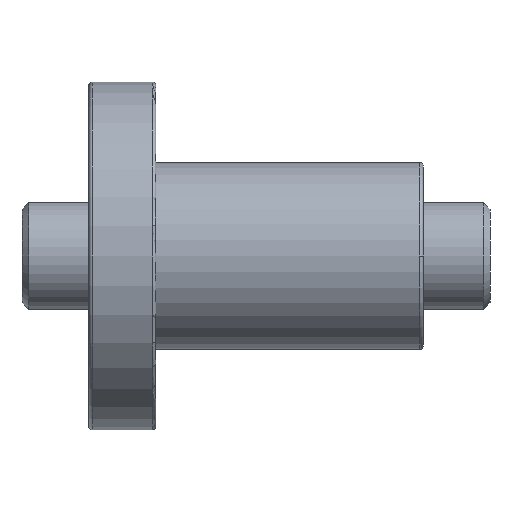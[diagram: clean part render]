
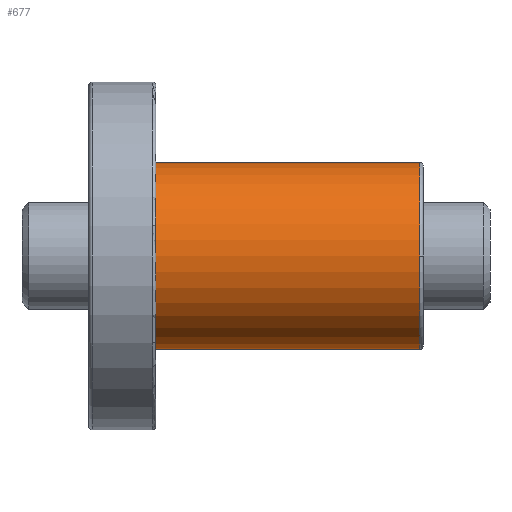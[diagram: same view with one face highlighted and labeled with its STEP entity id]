
A CAD part, front view. The second image highlights one B-rep face of the part: STEP entity #677.
In plain terms, the highlighted cylindrical face has radius 14 mm (diameter 28 mm), a partial arc.
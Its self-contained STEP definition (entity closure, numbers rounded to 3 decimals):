
#97 = CARTESIAN_POINT ( 'NONE',  ( 2.947, 0.903, -10.178 ) ) ;
#249 = CARTESIAN_POINT ( 'NONE',  ( 42.447, -13.097, 3.822 ) ) ;
#372 = VERTEX_POINT ( 'NONE', #97 ) ;
#376 = VERTEX_POINT ( 'NONE', #3318 ) ;
#452 = EDGE_CURVE ( 'NONE', #2393, #372, #4390, .T. ) ;
#506 = EDGE_CURVE ( 'NONE', #584, #376, #2378, .T. ) ;
#530 = DIRECTION ( 'NONE',  ( 0., 0., 1. ) ) ;
#568 = EDGE_CURVE ( 'NONE', #376, #2393, #3278, .T. ) ;
#582 = CYLINDRICAL_SURFACE ( 'NONE', #4612, 14. ) ;
#584 = VERTEX_POINT ( 'NONE', #249 ) ;
#671 = VECTOR ( 'NONE', #2779, 1000. ) ;
#677 = ADVANCED_FACE ( 'NONE', ( #1871 ), #582, .T. ) ;
#1146 = AXIS2_PLACEMENT_3D ( 'NONE', #4433, #2297, #3380 ) ;
#1149 = ORIENTED_EDGE ( 'NONE', *, *, #452, .T. ) ;
#1297 = DIRECTION ( 'NONE',  ( -1., 0., 0. ) ) ;
#1523 = VECTOR ( 'NONE', #2357, 1000. ) ;
#1645 = DIRECTION ( 'NONE',  ( -1., 0., 0. ) ) ;
#1794 = LINE ( 'NONE', #4595, #671 ) ;
#1871 = FACE_OUTER_BOUND ( 'NONE', #4578, .T. ) ;
#1918 = DIRECTION ( 'NONE',  ( 0., 0., 1. ) ) ;
#2297 = DIRECTION ( 'NONE',  ( -1., 0., 0. ) ) ;
#2326 = DIRECTION ( 'NONE',  ( 1., 0., 0. ) ) ;
#2340 = CARTESIAN_POINT ( 'NONE',  ( 32.947, 0.903, 17.822 ) ) ;
#2357 = DIRECTION ( 'NONE',  ( -1., 0., 0. ) ) ;
#2378 = CIRCLE ( 'NONE', #1146, 14. ) ;
#2393 = VERTEX_POINT ( 'NONE', #3251 ) ;
#2779 = DIRECTION ( 'NONE',  ( -1., 0., 0. ) ) ;
#2896 = AXIS2_PLACEMENT_3D ( 'NONE', #4541, #1297, #530 ) ;
#2986 = EDGE_CURVE ( 'NONE', #3292, #584, #4147, .T. ) ;
#3088 = CARTESIAN_POINT ( 'NONE',  ( 32.947, 0.903, 3.822 ) ) ;
#3133 = EDGE_CURVE ( 'NONE', #3292, #372, #1794, .T. ) ;
#3243 = AXIS2_PLACEMENT_3D ( 'NONE', #4098, #2326, #1918 ) ;
#3251 = CARTESIAN_POINT ( 'NONE',  ( 2.947, 0.903, 17.822 ) ) ;
#3278 = LINE ( 'NONE', #2340, #1523 ) ;
#3292 = VERTEX_POINT ( 'NONE', #3654 ) ;
#3318 = CARTESIAN_POINT ( 'NONE',  ( 42.447, 0.903, 17.822 ) ) ;
#3380 = DIRECTION ( 'NONE',  ( 0., 0., 1. ) ) ;
#3492 = ORIENTED_EDGE ( 'NONE', *, *, #568, .T. ) ;
#3644 = ORIENTED_EDGE ( 'NONE', *, *, #3133, .F. ) ;
#3654 = CARTESIAN_POINT ( 'NONE',  ( 42.447, 0.903, -10.178 ) ) ;
#3806 = ORIENTED_EDGE ( 'NONE', *, *, #2986, .T. ) ;
#3852 = ORIENTED_EDGE ( 'NONE', *, *, #506, .T. ) ;
#4098 = CARTESIAN_POINT ( 'NONE',  ( 2.947, 0.903, 3.822 ) ) ;
#4147 = CIRCLE ( 'NONE', #2896, 14. ) ;
#4151 = DIRECTION ( 'NONE',  ( 0., 0., 1. ) ) ;
#4390 = CIRCLE ( 'NONE', #3243, 14. ) ;
#4433 = CARTESIAN_POINT ( 'NONE',  ( 42.447, 0.903, 3.822 ) ) ;
#4541 = CARTESIAN_POINT ( 'NONE',  ( 42.447, 0.903, 3.822 ) ) ;
#4578 = EDGE_LOOP ( 'NONE', ( #3644, #3806, #3852, #3492, #1149 ) ) ;
#4595 = CARTESIAN_POINT ( 'NONE',  ( 32.947, 0.903, -10.178 ) ) ;
#4612 = AXIS2_PLACEMENT_3D ( 'NONE', #3088, #1645, #4151 ) ;
